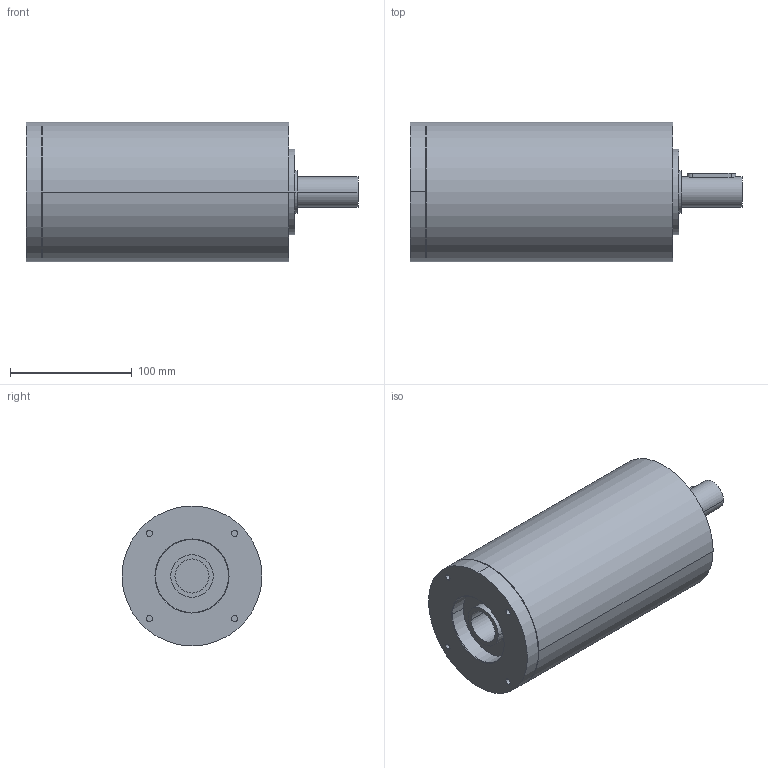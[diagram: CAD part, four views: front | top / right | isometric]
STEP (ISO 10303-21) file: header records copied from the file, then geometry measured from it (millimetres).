
FILE_DESCRIPTION(('CoCreate Modeling STEP Export'),'2;1');
FILE_NAME('GPR125_ig-48-64-80-100-140-196-245-343_25_B14_28_P20.stp','2014-08-26T14:22:59',(''),(''),'CoCreate Modeling STEP processor for AP214 (Solid Model)','CoCreate Modeling 16.00C 25-Feb-2009 (C) Parametric Technology GmbH','');
FILE_SCHEMA(('AUTOMOTIVE_DESIGN { 1 0 10303 214 1 1 1 1 }'));
Length unit declared in the file: millimetre
Products named in the file (2): GPR125_ig-48-64-80-100-140-196-245-343_25_B14_28_P20
Assembly tree (1 placements, depth 2):
  GPR125_ig-48-64-80-100-140-196-245-343_25_B14_28_P20
    GPR125_ig-48-64-80-100-140-196-245-343_25_B14_28_P20
Bounding box: 273 x 115 x 115 mm (x, y, z)
Volume: 2219521.7 mm3; surface area: 116075.5 mm2
Topology: 1 solids, 1 shells, 62 faces, 159 edges, 113 vertices
Faces by surface type: cylinder 36, plane 20, cone 6
Entity records: 1615 total; most frequent: ORIENTED_EDGE 314, CARTESIAN_POINT 308, DIRECTION 206, EDGE_CURVE 157, VERTEX_POINT 113, AXIS2_PLACEMENT_3D 79, EDGE_LOOP 78, FACE_OUTER_BOUND 62
